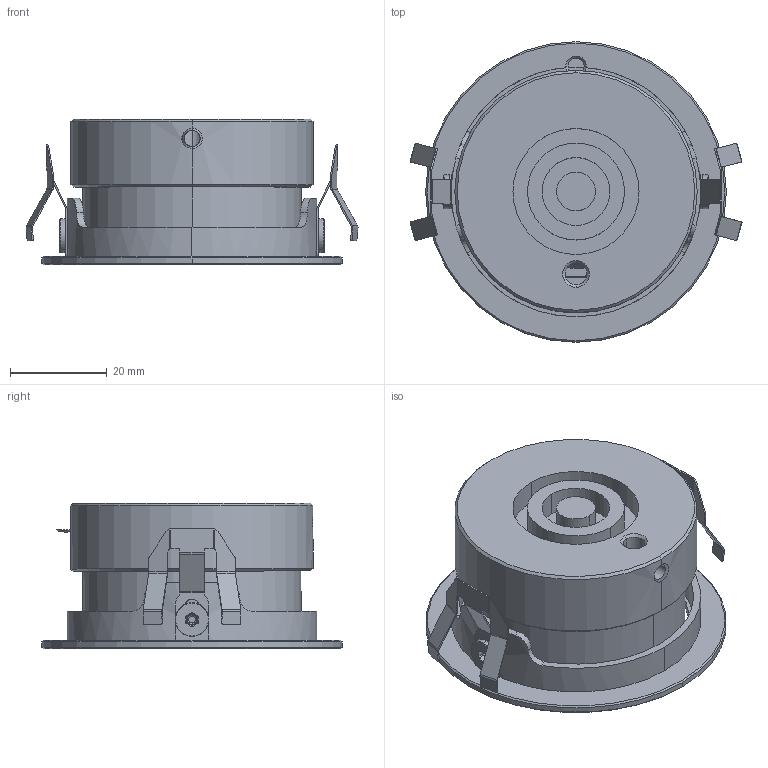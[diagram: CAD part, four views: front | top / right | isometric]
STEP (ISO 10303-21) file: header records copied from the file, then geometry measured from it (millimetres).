
FILE_DESCRIPTION(/* description */ (''),/* implementation_level */ '2;1');
FILE_NAME(/* name */ 'Kivi_7W_3d',/* time_stamp */ '2026-09-29T12:25:01+02:00',/* author */ (''),/* organization */ (''),/* preprocessor_version */ 'ST-DEVELOPER v19.2',/* originating_system */ 'Rhino 8.23',/* authorisation */ '');
FILE_SCHEMA (('CONFIG_CONTROL_DESIGN'));
Length unit declared in the file: millimetre
Products named in the file (2): Document; Kivi_7w
Bounding box: 68.49 x 62 x 30.11 mm (x, y, z)
Surface area: 30228.4 mm2
Topology: 2 solids, 30 shells, 1443 faces, 3918 edges, 2520 vertices
Faces by surface type: plane 932, cylinder 278, bspline 233
Entity records: 49750 total; most frequent: CARTESIAN_POINT 21322, ORIENTED_EDGE 7204, EDGE_CURVE 3916, B_SPLINE_CURVE_WITH_KNOTS 3011, VERTEX_POINT 2520, DIRECTION 2518, AXIS2_PLACEMENT_3D 1864, EDGE_LOOP 1608
